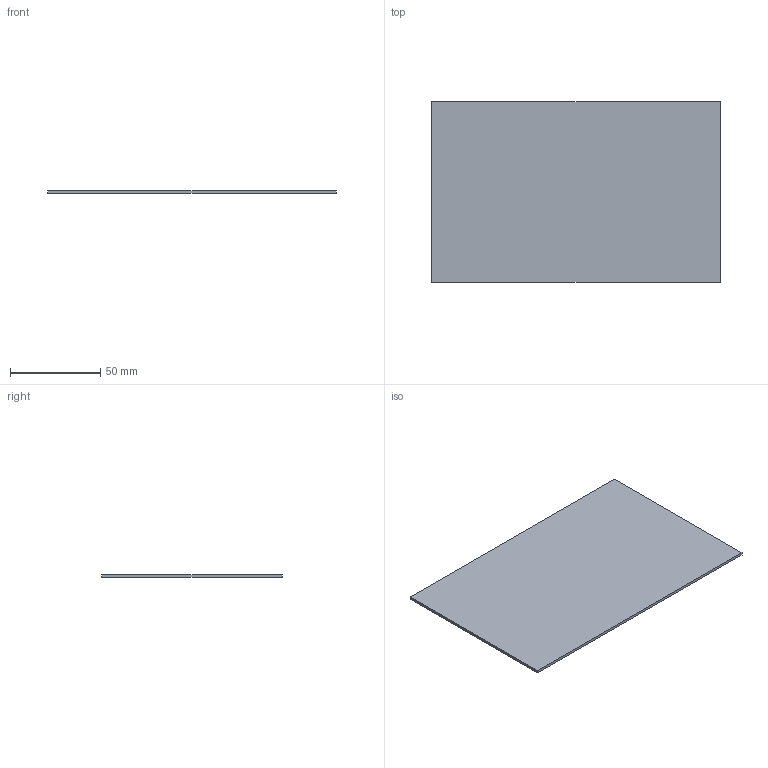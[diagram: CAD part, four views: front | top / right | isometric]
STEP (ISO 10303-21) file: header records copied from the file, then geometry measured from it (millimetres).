
FILE_DESCRIPTION(('KiCad electronic assembly'),'2;1');
FILE_NAME('board.step','2026-08-08T16:04:33',('Pcbnew'),('Kicad'), 'Open CASCADE STEP processor 7.9','KiCad to STEP converter','Unknown' );
FILE_SCHEMA(('AUTOMOTIVE_DESIGN { 1 0 10303 214 1 1 1 1 }'));
Length unit declared in the file: millimetre
Products named in the file (2): board 1; dock_PCB
Assembly tree (1 placements, depth 2):
  board 1
    dock_PCB
Bounding box: 160 x 100 x 1.52 mm (x, y, z)
Volume: 24320 mm3; surface area: 32790.4 mm2
Topology: 1 solids, 1 shells, 6 faces, 12 edges, 8 vertices
Faces by surface type: plane 6
Entity records: 193 total; most frequent: CARTESIAN_POINT 28, DIRECTION 28, ORIENTED_EDGE 24, EDGE_CURVE 12, LINE 12, VECTOR 12, AXIS2_PLACEMENT_3D 8, VERTEX_POINT 8
